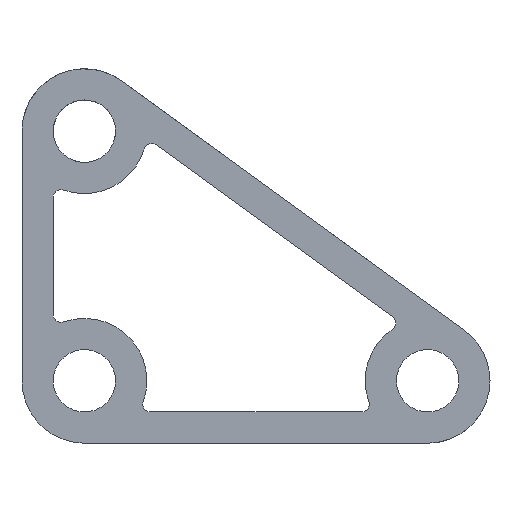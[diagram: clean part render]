
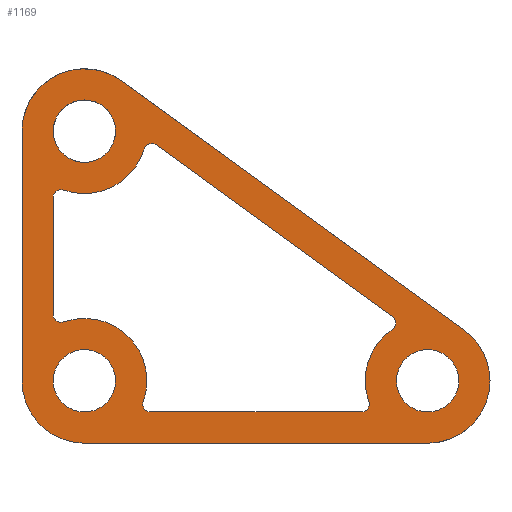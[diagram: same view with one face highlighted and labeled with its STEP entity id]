
A CAD part, left-side view. The second image highlights one B-rep face of the part: STEP entity #1169.
In plain terms, the highlighted planar face has unit normal (-1, 0, 0).
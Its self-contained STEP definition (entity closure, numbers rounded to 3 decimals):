
#42=CARTESIAN_POINT('',(-30.,118.237,116.175));
#43=VERTEX_POINT('',#42);
#50=CARTESIAN_POINT('',(-30.,8.237,36.175));
#51=VERTEX_POINT('',#50);
#52=CARTESIAN_POINT('',(-30.,118.237,116.175));
#53=DIRECTION('',(0.,-0.809,-0.588));
#54=VECTOR('',#53,136.015);
#55=LINE('',#52,#54);
#56=EDGE_CURVE('',#43,#51,#55,.T.);
#106=CARTESIAN_POINT('',(-30.,20.,0.));
#107=VERTEX_POINT('',#106);
#114=CARTESIAN_POINT('',(-30.,130.,0.));
#115=VERTEX_POINT('',#114);
#116=CARTESIAN_POINT('',(-30.,130.,0.));
#117=DIRECTION('',(0.,-1.,0.));
#118=VECTOR('',#117,110.);
#119=LINE('',#116,#118);
#120=EDGE_CURVE('',#115,#107,#119,.T.);
#154=CARTESIAN_POINT('',(-30.,150.,20.));
#155=VERTEX_POINT('',#154);
#162=CARTESIAN_POINT('',(-30.,150.,100.));
#163=VERTEX_POINT('',#162);
#164=CARTESIAN_POINT('',(-30.,150.,20.));
#165=DIRECTION('',(0.,-0.,1.));
#166=VECTOR('',#165,80.);
#167=LINE('',#164,#166);
#168=EDGE_CURVE('',#155,#163,#167,.T.);
#200=CARTESIAN_POINT('',(-30.,120.,20.));
#201=VERTEX_POINT('',#200);
#210=CARTESIAN_POINT('',(-30.,140.,20.));
#211=VERTEX_POINT('',#210);
#212=CARTESIAN_POINT('',(-30.,130.,20.));
#213=DIRECTION('',(1.,0.,0.));
#214=DIRECTION('',(0.,1.,-0.));
#215=AXIS2_PLACEMENT_3D('',#212,#213,#214);
#216=CIRCLE('',#215,10.);
#217=EDGE_CURVE('',#211,#201,#216,.T.);
#219=CARTESIAN_POINT('',(-30.,130.,20.));
#220=DIRECTION('',(1.,0.,0.));
#221=DIRECTION('',(0.,1.,-0.));
#222=AXIS2_PLACEMENT_3D('',#219,#220,#221);
#223=CIRCLE('',#222,10.);
#224=EDGE_CURVE('',#201,#211,#223,.T.);
#276=CARTESIAN_POINT('',(-30.,10.,20.));
#277=VERTEX_POINT('',#276);
#286=CARTESIAN_POINT('',(-30.,30.,20.));
#287=VERTEX_POINT('',#286);
#288=CARTESIAN_POINT('',(-30.,20.,20.));
#289=DIRECTION('',(1.,0.,0.));
#290=DIRECTION('',(0.,1.,-0.));
#291=AXIS2_PLACEMENT_3D('',#288,#289,#290);
#292=CIRCLE('',#291,10.);
#293=EDGE_CURVE('',#287,#277,#292,.T.);
#295=CARTESIAN_POINT('',(-30.,20.,20.));
#296=DIRECTION('',(1.,0.,0.));
#297=DIRECTION('',(0.,1.,-0.));
#298=AXIS2_PLACEMENT_3D('',#295,#296,#297);
#299=CIRCLE('',#298,10.);
#300=EDGE_CURVE('',#277,#287,#299,.T.);
#352=CARTESIAN_POINT('',(-30.,120.,100.));
#353=VERTEX_POINT('',#352);
#362=CARTESIAN_POINT('',(-30.,140.,100.));
#363=VERTEX_POINT('',#362);
#364=CARTESIAN_POINT('',(-30.,130.,100.));
#365=DIRECTION('',(1.,0.,0.));
#366=DIRECTION('',(0.,1.,-0.));
#367=AXIS2_PLACEMENT_3D('',#364,#365,#366);
#368=CIRCLE('',#367,10.);
#369=EDGE_CURVE('',#363,#353,#368,.T.);
#371=CARTESIAN_POINT('',(-30.,130.,100.));
#372=DIRECTION('',(1.,0.,0.));
#373=DIRECTION('',(0.,1.,-0.));
#374=AXIS2_PLACEMENT_3D('',#371,#372,#373);
#375=CIRCLE('',#374,10.);
#376=EDGE_CURVE('',#353,#363,#375,.T.);
#698=CARTESIAN_POINT('',(-30.,0.,20.));
#699=VERTEX_POINT('',#698);
#708=CARTESIAN_POINT('',(-30.,20.,20.));
#709=DIRECTION('',(1.,0.,0.));
#710=DIRECTION('',(0.,1.,-0.));
#711=AXIS2_PLACEMENT_3D('',#708,#709,#710);
#712=CIRCLE('',#711,20.);
#713=EDGE_CURVE('',#51,#699,#712,.T.);
#740=CARTESIAN_POINT('',(-30.,130.,20.));
#741=DIRECTION('',(1.,0.,0.));
#742=DIRECTION('',(0.,1.,-0.));
#743=AXIS2_PLACEMENT_3D('',#740,#741,#742);
#744=CIRCLE('',#743,20.);
#745=EDGE_CURVE('',#115,#155,#744,.T.);
#756=CARTESIAN_POINT('',(-30.,38.713,12.5));
#757=VERTEX_POINT('',#756);
#764=CARTESIAN_POINT('',(-30.,38.856,13.333));
#765=VERTEX_POINT('',#764);
#766=CARTESIAN_POINT('',(-30.,41.213,12.5));
#767=DIRECTION('',(1.,0.,0.));
#768=DIRECTION('',(0.,1.,-0.));
#769=AXIS2_PLACEMENT_3D('',#766,#767,#768);
#770=CIRCLE('',#769,2.5);
#771=EDGE_CURVE('',#765,#757,#770,.T.);
#788=CARTESIAN_POINT('',(-30.,31.329,36.482));
#789=VERTEX_POINT('',#788);
#790=CARTESIAN_POINT('',(-30.,20.,20.));
#791=DIRECTION('',(1.,0.,0.));
#792=DIRECTION('',(0.,1.,-0.));
#793=AXIS2_PLACEMENT_3D('',#790,#791,#792);
#794=CIRCLE('',#793,20.);
#795=EDGE_CURVE('',#765,#789,#794,.T.);
#813=CARTESIAN_POINT('',(-30.,30.245,38.543));
#814=VERTEX_POINT('',#813);
#821=CARTESIAN_POINT('',(-30.,31.274,40.564));
#822=VERTEX_POINT('',#821);
#823=CARTESIAN_POINT('',(-30.,32.745,38.543));
#824=DIRECTION('',(1.,0.,0.));
#825=DIRECTION('',(0.,1.,-0.));
#826=AXIS2_PLACEMENT_3D('',#823,#824,#825);
#827=CIRCLE('',#826,2.5);
#828=EDGE_CURVE('',#822,#814,#827,.T.);
#845=CARTESIAN_POINT('',(-30.,106.962,95.61));
#846=VERTEX_POINT('',#845);
#847=CARTESIAN_POINT('',(-30.,106.962,95.61));
#848=DIRECTION('',(0.,-0.809,-0.588));
#849=VECTOR('',#848,93.588);
#850=LINE('',#847,#849);
#851=EDGE_CURVE('',#846,#822,#850,.T.);
#869=CARTESIAN_POINT('',(-30.,110.829,94.301));
#870=VERTEX_POINT('',#869);
#871=CARTESIAN_POINT('',(-30.,108.433,93.589));
#872=DIRECTION('',(1.,0.,0.));
#873=DIRECTION('',(0.,1.,-0.));
#874=AXIS2_PLACEMENT_3D('',#871,#872,#873);
#875=CIRCLE('',#874,2.5);
#876=EDGE_CURVE('',#870,#846,#875,.T.);
#894=CARTESIAN_POINT('',(-30.,136.667,81.144));
#895=VERTEX_POINT('',#894);
#896=CARTESIAN_POINT('',(-30.,130.,100.));
#897=DIRECTION('',(1.,0.,0.));
#898=DIRECTION('',(0.,1.,-0.));
#899=AXIS2_PLACEMENT_3D('',#896,#897,#898);
#900=CIRCLE('',#899,20.);
#901=EDGE_CURVE('',#870,#895,#900,.T.);
#919=CARTESIAN_POINT('',(-30.,140.,78.787));
#920=VERTEX_POINT('',#919);
#921=CARTESIAN_POINT('',(-30.,137.5,78.787));
#922=DIRECTION('',(1.,0.,0.));
#923=DIRECTION('',(0.,1.,-0.));
#924=AXIS2_PLACEMENT_3D('',#921,#922,#923);
#925=CIRCLE('',#924,2.5);
#926=EDGE_CURVE('',#920,#895,#925,.T.);
#944=CARTESIAN_POINT('',(-30.,140.,41.213));
#945=VERTEX_POINT('',#944);
#946=CARTESIAN_POINT('',(-30.,140.,41.213));
#947=DIRECTION('',(0.,0.,1.));
#948=VECTOR('',#947,37.574);
#949=LINE('',#946,#948);
#950=EDGE_CURVE('',#945,#920,#949,.T.);
#968=CARTESIAN_POINT('',(-30.,136.667,38.856));
#969=VERTEX_POINT('',#968);
#970=CARTESIAN_POINT('',(-30.,137.5,41.213));
#971=DIRECTION('',(1.,0.,0.));
#972=DIRECTION('',(0.,1.,-0.));
#973=AXIS2_PLACEMENT_3D('',#970,#971,#972);
#974=CIRCLE('',#973,2.5);
#975=EDGE_CURVE('',#969,#945,#974,.T.);
#993=CARTESIAN_POINT('',(-30.,110.,20.));
#994=VERTEX_POINT('',#993);
#1003=CARTESIAN_POINT('',(-30.,130.,20.));
#1004=DIRECTION('',(1.,0.,0.));
#1005=DIRECTION('',(0.,1.,-0.));
#1006=AXIS2_PLACEMENT_3D('',#1003,#1004,#1005);
#1007=CIRCLE('',#1006,20.);
#1008=EDGE_CURVE('',#969,#994,#1007,.T.);
#1018=CARTESIAN_POINT('',(-30.,108.787,10.));
#1019=VERTEX_POINT('',#1018);
#1020=CARTESIAN_POINT('',(-30.,111.144,13.333));
#1021=VERTEX_POINT('',#1020);
#1022=CARTESIAN_POINT('',(-30.,108.787,12.5));
#1023=DIRECTION('',(1.,0.,0.));
#1024=DIRECTION('',(0.,1.,-0.));
#1025=AXIS2_PLACEMENT_3D('',#1022,#1023,#1024);
#1026=CIRCLE('',#1025,2.5);
#1027=EDGE_CURVE('',#1019,#1021,#1026,.T.);
#1050=CARTESIAN_POINT('',(-30.,41.213,10.));
#1051=VERTEX_POINT('',#1050);
#1052=CARTESIAN_POINT('',(-30.,108.787,10.));
#1053=DIRECTION('',(0.,-1.,0.));
#1054=VECTOR('',#1053,67.574);
#1055=LINE('',#1052,#1054);
#1056=EDGE_CURVE('',#1019,#1051,#1055,.T.);
#1091=CARTESIAN_POINT('',(-30.,130.,100.));
#1092=DIRECTION('',(1.,0.,0.));
#1093=DIRECTION('',(0.,1.,-0.));
#1094=AXIS2_PLACEMENT_3D('',#1091,#1092,#1093);
#1095=CIRCLE('',#1094,20.);
#1096=EDGE_CURVE('',#163,#43,#1095,.T.);
#1102=CARTESIAN_POINT('',(-30.,150.,-0.));
#1103=DIRECTION('',(1.,0.,0.));
#1104=DIRECTION('',(0.,0.,1.));
#1105=AXIS2_PLACEMENT_3D('',#1102,#1103,#1104);
#1106=PLANE('',#1105);
#1107=ORIENTED_EDGE('',*,*,#771,.T.);
#1108=CARTESIAN_POINT('',(-30.,41.213,12.5));
#1109=DIRECTION('',(1.,0.,0.));
#1110=DIRECTION('',(0.,1.,-0.));
#1111=AXIS2_PLACEMENT_3D('',#1108,#1109,#1110);
#1112=CIRCLE('',#1111,2.5);
#1113=EDGE_CURVE('',#757,#1051,#1112,.T.);
#1114=ORIENTED_EDGE('',*,*,#1113,.T.);
#1115=ORIENTED_EDGE('',*,*,#1056,.F.);
#1116=ORIENTED_EDGE('',*,*,#1027,.T.);
#1117=CARTESIAN_POINT('',(-30.,130.,20.));
#1118=DIRECTION('',(1.,0.,0.));
#1119=DIRECTION('',(0.,1.,-0.));
#1120=AXIS2_PLACEMENT_3D('',#1117,#1118,#1119);
#1121=CIRCLE('',#1120,20.);
#1122=EDGE_CURVE('',#994,#1021,#1121,.T.);
#1123=ORIENTED_EDGE('',*,*,#1122,.F.);
#1124=ORIENTED_EDGE('',*,*,#1008,.F.);
#1125=ORIENTED_EDGE('',*,*,#975,.T.);
#1126=ORIENTED_EDGE('',*,*,#950,.T.);
#1127=ORIENTED_EDGE('',*,*,#926,.T.);
#1128=ORIENTED_EDGE('',*,*,#901,.F.);
#1129=ORIENTED_EDGE('',*,*,#876,.T.);
#1130=ORIENTED_EDGE('',*,*,#851,.T.);
#1131=ORIENTED_EDGE('',*,*,#828,.T.);
#1132=CARTESIAN_POINT('',(-30.,32.745,38.543));
#1133=DIRECTION('',(1.,0.,0.));
#1134=DIRECTION('',(0.,1.,-0.));
#1135=AXIS2_PLACEMENT_3D('',#1132,#1133,#1134);
#1136=CIRCLE('',#1135,2.5);
#1137=EDGE_CURVE('',#814,#789,#1136,.T.);
#1138=ORIENTED_EDGE('',*,*,#1137,.T.);
#1139=ORIENTED_EDGE('',*,*,#795,.F.);
#1140=EDGE_LOOP('',(#1107,#1114,#1115,#1116,#1123,#1124,#1125,#1126,#1127,#1128,#1129,#1130,#1131,#1138,#1139));
#1141=FACE_BOUND('',#1140,.T.);
#1142=ORIENTED_EDGE('',*,*,#369,.T.);
#1143=ORIENTED_EDGE('',*,*,#376,.T.);
#1144=EDGE_LOOP('',(#1142,#1143));
#1145=FACE_BOUND('',#1144,.T.);
#1146=ORIENTED_EDGE('',*,*,#293,.T.);
#1147=ORIENTED_EDGE('',*,*,#300,.T.);
#1148=EDGE_LOOP('',(#1146,#1147));
#1149=FACE_BOUND('',#1148,.T.);
#1150=ORIENTED_EDGE('',*,*,#217,.T.);
#1151=ORIENTED_EDGE('',*,*,#224,.T.);
#1152=EDGE_LOOP('',(#1150,#1151));
#1153=FACE_BOUND('',#1152,.T.);
#1154=ORIENTED_EDGE('',*,*,#56,.F.);
#1155=ORIENTED_EDGE('',*,*,#1096,.F.);
#1156=ORIENTED_EDGE('',*,*,#168,.F.);
#1157=ORIENTED_EDGE('',*,*,#745,.F.);
#1158=ORIENTED_EDGE('',*,*,#120,.T.);
#1159=CARTESIAN_POINT('',(-30.,20.,20.));
#1160=DIRECTION('',(1.,0.,0.));
#1161=DIRECTION('',(0.,1.,-0.));
#1162=AXIS2_PLACEMENT_3D('',#1159,#1160,#1161);
#1163=CIRCLE('',#1162,20.);
#1164=EDGE_CURVE('',#699,#107,#1163,.T.);
#1165=ORIENTED_EDGE('',*,*,#1164,.F.);
#1166=ORIENTED_EDGE('',*,*,#713,.F.);
#1167=EDGE_LOOP('',(#1154,#1155,#1156,#1157,#1158,#1165,#1166));
#1168=FACE_BOUND('',#1167,.T.);
#1169=ADVANCED_FACE('',(#1141,#1145,#1149,#1153,#1168),#1106,.F.);
